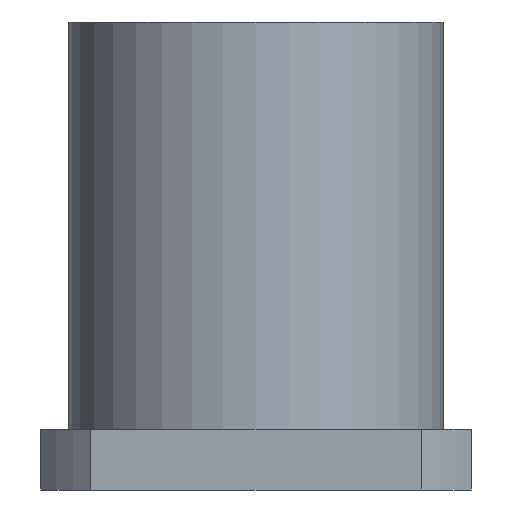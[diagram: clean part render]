
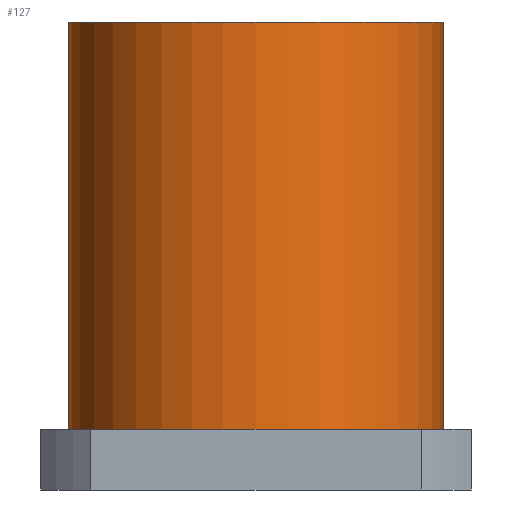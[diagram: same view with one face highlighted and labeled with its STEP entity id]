
A CAD part, front view. The second image highlights one B-rep face of the part: STEP entity #127.
In plain terms, the highlighted cylindrical face has radius 40 mm (diameter 80 mm), a partial arc.
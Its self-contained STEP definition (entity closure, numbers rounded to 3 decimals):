
#86=CARTESIAN_POINT('',(-14.031,3.294,0.0));
#87=DIRECTION('',(0.0,0.0,1.0));
#88=DIRECTION('',(-1.0,0.0,0.0));
#89=AXIS2_PLACEMENT_3D('',#86,#87,#88);
#90=CYLINDRICAL_SURFACE('',#89,40.0);
#91=CARTESIAN_POINT('',(-54.031,3.294,13.0));
#92=VERTEX_POINT('',#91);
#93=CARTESIAN_POINT('',(-54.031,3.294,100.0));
#94=VERTEX_POINT('',#93);
#95=CARTESIAN_POINT('',(-54.031,3.294,13.0));
#96=DIRECTION('',(0.0,0.0,1.0));
#97=VECTOR('',#96,87.0);
#98=LINE('',#95,#97);
#99=EDGE_CURVE('',#92,#94,#98,.T.);
#100=ORIENTED_EDGE('',*,*,#99,.F.);
#101=CARTESIAN_POINT('',(25.969,3.294,13.0));
#102=VERTEX_POINT('',#101);
#103=CARTESIAN_POINT('',(-14.031,3.294,13.0));
#104=DIRECTION('',(0.0,0.0,-1.0));
#105=DIRECTION('',(-1.0,0.0,0.0));
#106=AXIS2_PLACEMENT_3D('',#103,#104,#105);
#107=CIRCLE('',#106,40.0);
#108=EDGE_CURVE('',#102,#92,#107,.T.);
#109=ORIENTED_EDGE('',*,*,#108,.F.);
#110=CARTESIAN_POINT('',(25.969,3.294,100.0));
#111=VERTEX_POINT('',#110);
#112=CARTESIAN_POINT('',(25.969,3.294,100.0));
#113=DIRECTION('',(0.0,0.0,-1.0));
#114=VECTOR('',#113,87.0);
#115=LINE('',#112,#114);
#116=EDGE_CURVE('',#111,#102,#115,.T.);
#117=ORIENTED_EDGE('',*,*,#116,.F.);
#118=CARTESIAN_POINT('',(-14.031,3.294,100.0));
#119=DIRECTION('',(0.0,0.0,-1.0));
#120=DIRECTION('',(-1.0,0.0,0.0));
#121=AXIS2_PLACEMENT_3D('',#118,#119,#120);
#122=CIRCLE('',#121,40.0);
#123=EDGE_CURVE('',#111,#94,#122,.T.);
#124=ORIENTED_EDGE('',*,*,#123,.T.);
#125=EDGE_LOOP('',(#100,#109,#117,#124));
#126=FACE_OUTER_BOUND('',#125,.T.);
#127=ADVANCED_FACE('',(#126),#90,.T.);
